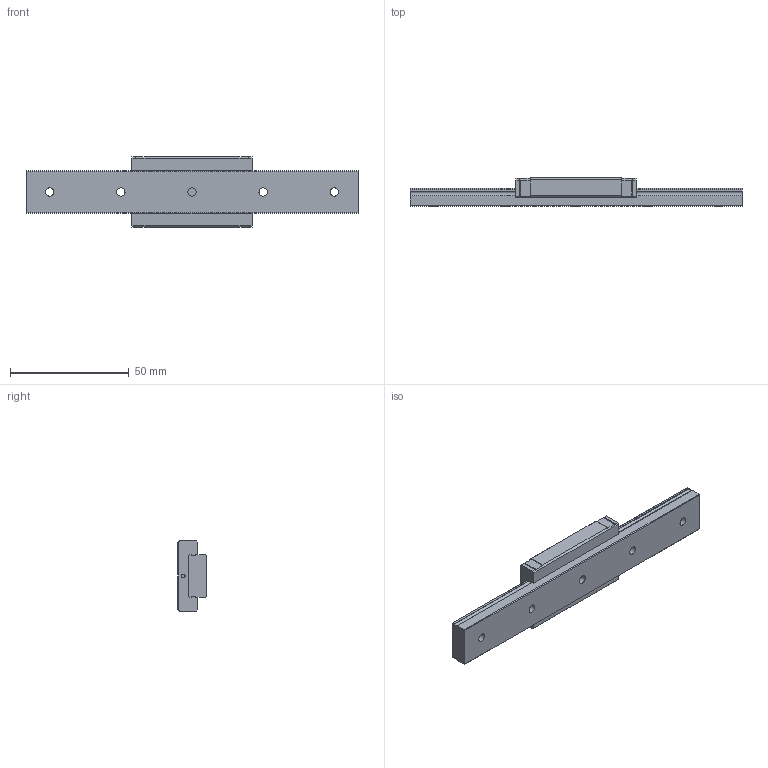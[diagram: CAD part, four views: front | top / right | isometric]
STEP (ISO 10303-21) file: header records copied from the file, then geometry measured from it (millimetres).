
FILE_DESCRIPTION(/* description */ ('STEP AP203'),/* implementation_level */ '2;1');
FILE_NAME(/* name */ 'RSX9M1WNUUE-140LM_G10_0_Without grease nipple_44-65_0_0_0_1',/* time_stamp */ '2024-05-23T08:36:52+02:00',/* author */ ('License CC BY-ND 4.0'),/* organization */ ('CADENAS'),/* preprocessor_version */ 'ST-DEVELOPER v19.3',/* originating_system */ 'PARTsolutions',/* authorisation */ ' ');
FILE_SCHEMA (('CONFIG_CONTROL_DESIGN'));
Length unit declared in the file: millimetre
Products named in the file (3): RSX9M1WNUUE-140LM_G10_0_Without grease nipple_44-65_0_0_0_1; RSX9M1W14010 Track; RSX9M1WNUU1 Slider
Assembly tree (2 placements, depth 2):
  RSX9M1WNUUE-140LM_G10_0_Without grease nipple_44-65_0_0_0_1
    RSX9M1W14010 Track
    RSX9M1WNUU1 Slider
Bounding box: 140 x 12 x 30 mm (x, y, z)
Volume: 26825.1 mm3; surface area: 12649.6 mm2
Topology: 2 solids, 2 shells, 115 faces, 296 edges, 192 vertices
Faces by surface type: plane 79, cylinder 28, cone 8
Full cylindrical faces by diameter (mm): 1.6 x2, 2.459 x4, 3.5 x5, 6 x5
Entity records: 3381 total; most frequent: CARTESIAN_POINT 570, DIRECTION 560, ORIENTED_EDGE 528, EDGE_CURVE 264, LINE 204, VECTOR 204, VERTEX_POINT 188, AXIS2_PLACEMENT_3D 178
